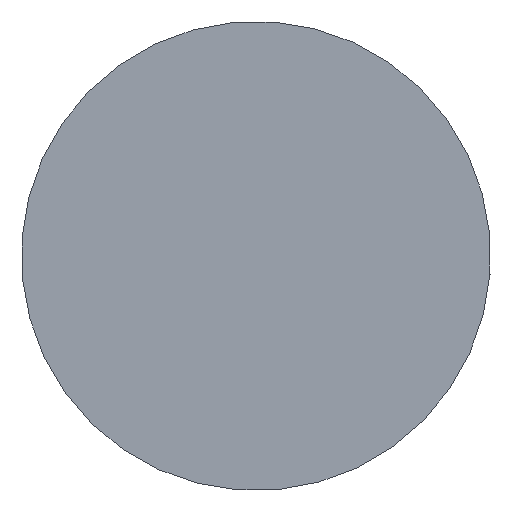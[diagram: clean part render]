
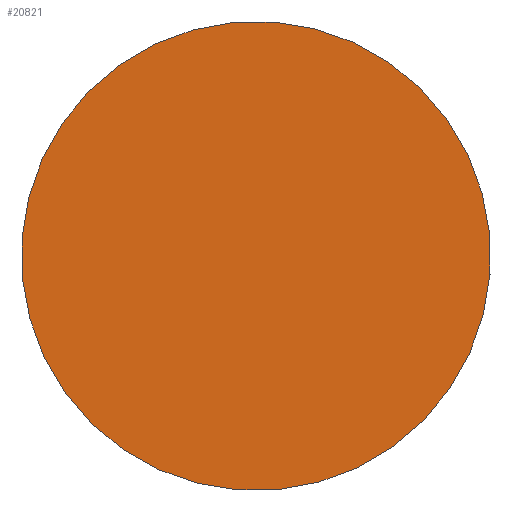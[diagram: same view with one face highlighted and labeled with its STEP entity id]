
A CAD part, left-side view. The second image highlights one B-rep face of the part: STEP entity #20821.
In plain terms, the highlighted planar face has unit normal (-1, 0, 0).
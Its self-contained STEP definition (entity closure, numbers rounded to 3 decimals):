
#20798=CARTESIAN_POINT('',(-52.445,52.204,43.526));
#20799=VERTEX_POINT('',#20798);
#20800=CARTESIAN_POINT('',(-52.445,21.095,0.));
#20801=DIRECTION('',(-1.0,0.,0.));
#20802=DIRECTION('',(0.,0.581,0.814));
#20803=AXIS2_PLACEMENT_3D('',#20800,#20801,#20802);
#20804=CIRCLE('',#20803,53.5);
#20805=EDGE_CURVE('',#20799,#20799,#20804,.T.);
#20813=CARTESIAN_POINT('',(-52.445,48.279,38.034));
#20814=DIRECTION('',(-1.0,0.0,0.0));
#20815=DIRECTION('',(0.0,0.814,-0.581));
#20816=AXIS2_PLACEMENT_3D('',#20813,#20814,#20815);
#20817=PLANE('',#20816);
#20818=ORIENTED_EDGE('',*,*,#20805,.T.);
#20819=EDGE_LOOP('',(#20818));
#20820=FACE_OUTER_BOUND('',#20819,.T.);
#20821=ADVANCED_FACE('',(#20820),#20817,.T.);
